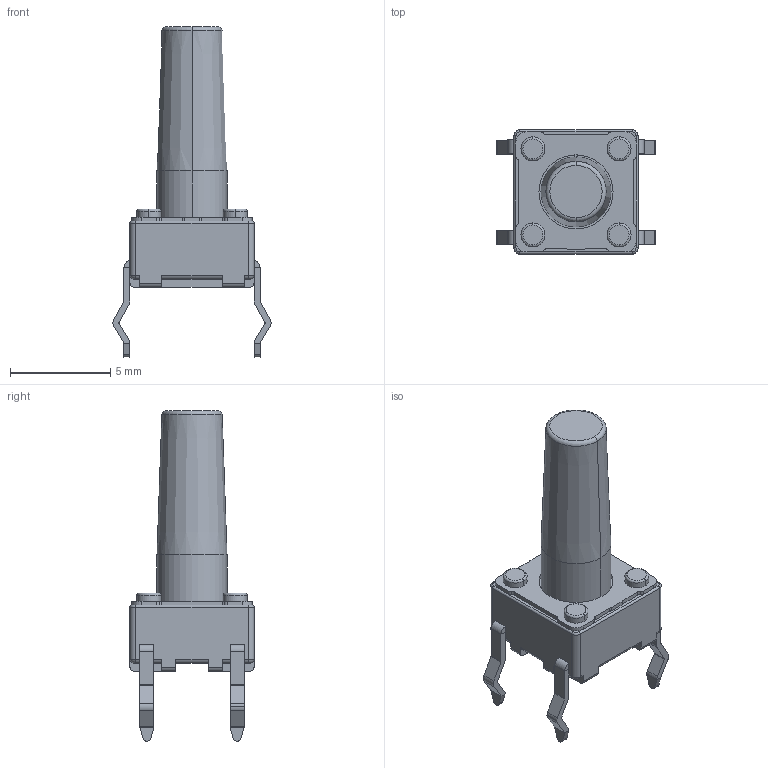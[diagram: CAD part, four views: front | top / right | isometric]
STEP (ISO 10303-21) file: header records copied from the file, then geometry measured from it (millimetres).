
FILE_DESCRIPTION (( 'STEP AP214' ), '1' );
FILE_NAME ('SKHHDT.STEP', '2009-11-25T02:28:11', ( ' ' ), ( ' ' ), 'SwSTEP 2.0', 'SolidWorks 2007', '' );
FILE_SCHEMA (( 'AUTOMOTIVE_DESIGN' ));
Length unit declared in the file: millimetre
Products named in the file (1): SKHHDT
Bounding box: 7.9 x 6.2 x 16.5 mm (x, y, z)
Volume: 209.1 mm3; surface area: 319.1 mm2
Topology: 1 solids, 5 shells, 284 faces, 728 edges, 460 vertices
Faces by surface type: plane 136, cylinder 128, torus 18, cone 2
Entity records: 11490 total; most frequent: DIRECTION 1584, CARTESIAN_POINT 1473, ORIENTED_EDGE 1456, EDGE_CURVE 728, AXIS2_PLACEMENT_3D 571, VERTEX_POINT 460, LINE 442, VECTOR 442
